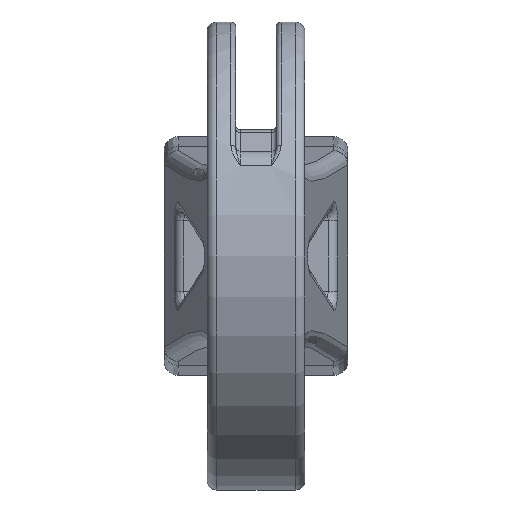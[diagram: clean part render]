
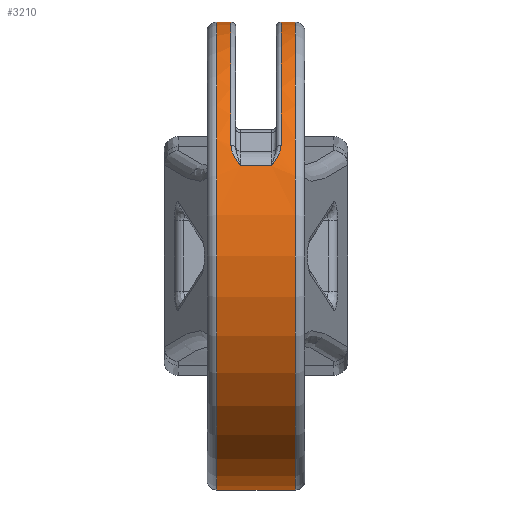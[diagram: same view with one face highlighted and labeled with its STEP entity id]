
A CAD part, left-side view. The second image highlights one B-rep face of the part: STEP entity #3210.
In plain terms, the highlighted cylindrical face has radius 49 mm (diameter 98 mm), a partial arc.
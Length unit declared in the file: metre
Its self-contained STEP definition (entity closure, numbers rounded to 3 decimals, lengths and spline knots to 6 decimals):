
#158=B_SPLINE_CURVE_WITH_KNOTS('',3,(#5147,#5148,#5149,#5150,#5151),
 .UNSPECIFIED.,.F.,.F.,(4,1,4),(0.,0.002624,0.005249),
 .UNSPECIFIED.);
#159=B_SPLINE_CURVE_WITH_KNOTS('',3,(#5155,#5156,#5157,#5158,#5159),
 .UNSPECIFIED.,.F.,.F.,(4,1,4),(0.,0.002624,0.005249),
 .UNSPECIFIED.);
#286=CIRCLE('',#3464,0.049);
#287=CIRCLE('',#3465,0.049);
#288=CIRCLE('',#3466,0.049);
#289=CIRCLE('',#3467,0.049);
#418=CYLINDRICAL_SURFACE('',#3463,0.049);
#644=ORIENTED_EDGE('',*,*,#1640,.F.);
#645=ORIENTED_EDGE('',*,*,#1641,.T.);
#646=ORIENTED_EDGE('',*,*,#1639,.T.);
#647=ORIENTED_EDGE('',*,*,#1642,.T.);
#648=ORIENTED_EDGE('',*,*,#1643,.T.);
#649=ORIENTED_EDGE('',*,*,#1644,.T.);
#650=ORIENTED_EDGE('',*,*,#1645,.T.);
#651=ORIENTED_EDGE('',*,*,#1646,.T.);
#652=ORIENTED_EDGE('',*,*,#1602,.T.);
#653=ORIENTED_EDGE('',*,*,#1647,.T.);
#1602=EDGE_CURVE('',#2097,#2100,#2357,.T.);
#1639=EDGE_CURVE('',#2134,#2137,#2369,.T.);
#1640=EDGE_CURVE('',#2138,#2139,#2370,.T.);
#1641=EDGE_CURVE('',#2138,#2134,#286,.F.);
#1642=EDGE_CURVE('',#2137,#2140,#287,.T.);
#1643=EDGE_CURVE('',#2140,#2141,#158,.T.);
#1644=EDGE_CURVE('',#2141,#2142,#2371,.T.);
#1645=EDGE_CURVE('',#2142,#2143,#159,.F.);
#1646=EDGE_CURVE('',#2143,#2097,#288,.F.);
#1647=EDGE_CURVE('',#2100,#2139,#289,.F.);
#2097=VERTEX_POINT('',#4932);
#2100=VERTEX_POINT('',#4937);
#2134=VERTEX_POINT('',#5133);
#2137=VERTEX_POINT('',#5138);
#2138=VERTEX_POINT('',#5142);
#2139=VERTEX_POINT('',#5143);
#2140=VERTEX_POINT('',#5146);
#2141=VERTEX_POINT('',#5152);
#2142=VERTEX_POINT('',#5154);
#2143=VERTEX_POINT('',#5160);
#2357=LINE('',#4938,#2542);
#2369=LINE('',#5139,#2554);
#2370=LINE('',#5141,#2555);
#2371=LINE('',#5153,#2556);
#2542=VECTOR('',#3903,1.);
#2554=VECTOR('',#3927,1.);
#2555=VECTOR('',#3930,1.);
#2556=VECTOR('',#3935,1.);
#2704=EDGE_LOOP('',(#644,#645,#646,#647,#648,#649,#650,#651,#652,#653));
#2937=FACE_BOUND('',#2704,.T.);
#3210=ADVANCED_FACE('',(#2937),#418,.T.);
#3463=AXIS2_PLACEMENT_3D('',#5140,#3928,#3929);
#3464=AXIS2_PLACEMENT_3D('',#5144,#3931,#3932);
#3465=AXIS2_PLACEMENT_3D('',#5145,#3933,#3934);
#3466=AXIS2_PLACEMENT_3D('',#5161,#3936,#3937);
#3467=AXIS2_PLACEMENT_3D('',#5162,#3938,#3939);
#3903=DIRECTION('',(0.,1.,0.));
#3927=DIRECTION('',(0.,1.,0.));
#3928=DIRECTION('',(0.,1.,0.));
#3929=DIRECTION('',(0.,0.,1.));
#3930=DIRECTION('',(0.,1.,0.));
#3931=DIRECTION('',(0.,-1.,0.));
#3932=DIRECTION('',(0.,0.,-1.));
#3933=DIRECTION('',(0.,-1.,0.));
#3934=DIRECTION('',(0.,0.,-1.));
#3935=DIRECTION('',(0.,1.,0.));
#3936=DIRECTION('',(0.,-1.,0.));
#3937=DIRECTION('',(0.,0.,-1.));
#3938=DIRECTION('',(0.,1.,0.));
#3939=DIRECTION('',(0.,0.,1.));
#4932=CARTESIAN_POINT('',(0.,0.00525,0.049));
#4937=CARTESIAN_POINT('',(0.,0.00825,0.049));
#4938=CARTESIAN_POINT('',(0.,-0.00925,0.049));
#5133=CARTESIAN_POINT('',(0.,-0.00825,0.049));
#5138=CARTESIAN_POINT('',(0.,-0.00525,0.049));
#5139=CARTESIAN_POINT('',(0.,-0.00925,0.049));
#5140=CARTESIAN_POINT('',(0.,-0.00925,0.));
#5141=CARTESIAN_POINT('',(0.,-0.00925,-0.049));
#5142=CARTESIAN_POINT('',(0.,-0.00825,-0.049));
#5143=CARTESIAN_POINT('',(0.,0.00825,-0.049));
#5144=CARTESIAN_POINT('',(0.,-0.00825,0.));
#5145=CARTESIAN_POINT('',(0.,-0.00525,0.));
#5146=CARTESIAN_POINT('',(-0.043182,-0.00525,0.023159));
#5147=CARTESIAN_POINT('',(-0.043182,-0.00525,0.023159));
#5148=CARTESIAN_POINT('',(-0.043601,-0.00525,0.022377));
#5149=CARTESIAN_POINT('',(-0.044361,-0.004699,0.020855));
#5150=CARTESIAN_POINT('',(-0.044948,-0.003733,0.019525));
#5151=CARTESIAN_POINT('',(-0.045228,-0.00325,0.018852));
#5152=CARTESIAN_POINT('',(-0.045228,-0.00325,0.018852));
#5153=CARTESIAN_POINT('',(-0.045228,-0.00925,0.018852));
#5154=CARTESIAN_POINT('',(-0.045228,0.00325,0.018852));
#5155=CARTESIAN_POINT('',(-0.043182,0.00525,0.023159));
#5156=CARTESIAN_POINT('',(-0.043601,0.00525,0.022377));
#5157=CARTESIAN_POINT('',(-0.044361,0.004699,0.020855));
#5158=CARTESIAN_POINT('',(-0.044948,0.003733,0.019525));
#5159=CARTESIAN_POINT('',(-0.045228,0.00325,0.018852));
#5160=CARTESIAN_POINT('',(-0.043182,0.00525,0.023159));
#5161=CARTESIAN_POINT('',(0.,0.00525,0.));
#5162=CARTESIAN_POINT('',(0.,0.00825,0.));
